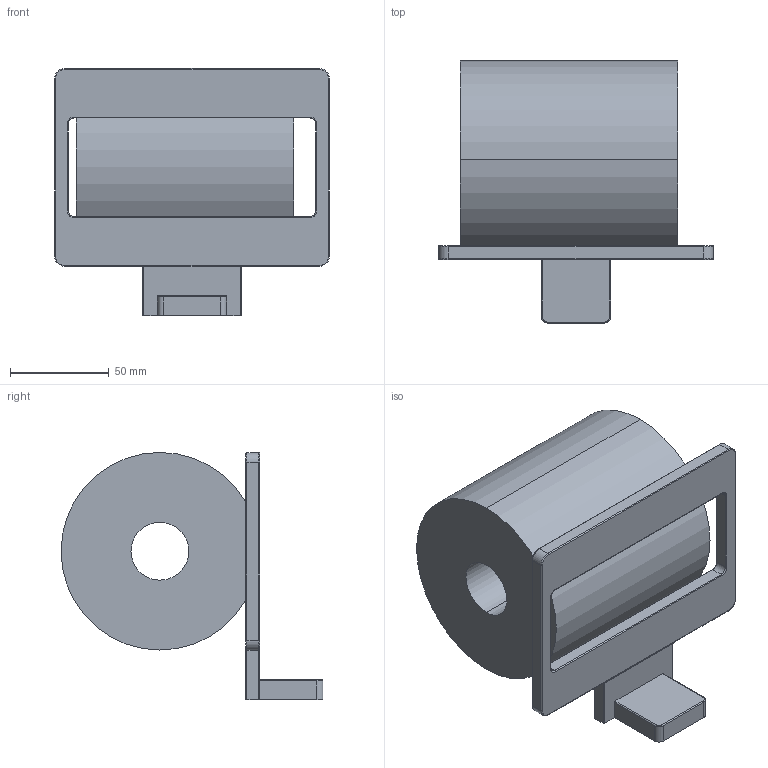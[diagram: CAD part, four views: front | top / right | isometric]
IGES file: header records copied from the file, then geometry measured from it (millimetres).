
Start section:  PTC IGES file: yh900p.igs
Global section: file name: yh900p.igs; native system: Pro/ENGINEER by Parametric Technology Corporation; preprocessor: 2009140; author: damjan; organization: Unknown; date: 20100804.103859; units: millimetre
Bounding box: 139 x 132.51 x 125.09 mm (x, y, z)
Volume: 863036.1 mm3; surface area: 85414.2 mm2
Topology: 2 solids, 2 shells, 87 faces, 197 edges, 114 vertices
Faces by surface type: revolution 63, bspline 24
